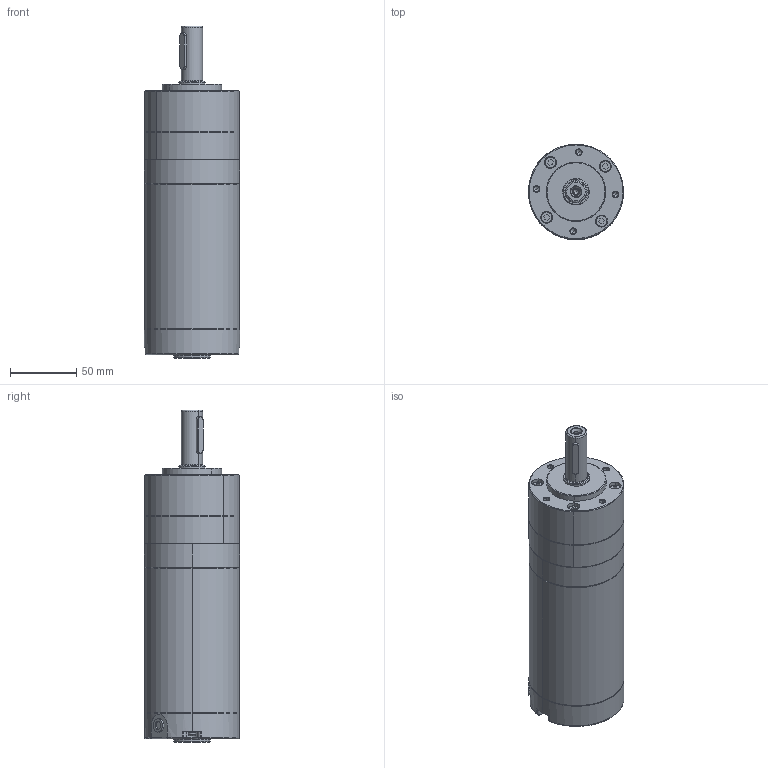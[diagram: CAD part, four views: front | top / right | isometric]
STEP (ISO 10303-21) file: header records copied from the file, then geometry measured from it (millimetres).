
FILE_DESCRIPTION (( 'STEP AP203' ), '1' );
FILE_NAME ('72ZPN衄芃珨撰熬厒.STEP', '2021-07-17T08:19:47', ( '' ), ( '' ), 'SwSTEP 2.0', 'SolidWorks 2021', '' );
FILE_SCHEMA (( 'CONFIG_CONTROL_DESIGN' ));
Length unit declared in the file: millimetre
Products named in the file (3): 72ZPN衄芃珨撰熬厒; 72PN珨撰
Assembly tree (2 placements, depth 2):
  72ZPN衄芃珨撰熬厒
    72ZPN衄芃珨撰熬厒
    72PN珨撰
Bounding box: 72 x 72 x 251.5 mm (x, y, z)
Volume: 819702.8 mm3; surface area: 68239.5 mm2
Topology: 2 solids, 2 shells, 244 faces, 557 edges, 339 vertices
Faces by surface type: plane 89, cylinder 79, cone 40, torus 22, bspline 14
Entity records: 7521 total; most frequent: CARTESIAN_POINT 1686, DIRECTION 1236, ORIENTED_EDGE 1094, EDGE_CURVE 547, AXIS2_PLACEMENT_3D 475, VERTEX_POINT 339, VECTOR 286, LINE 286
